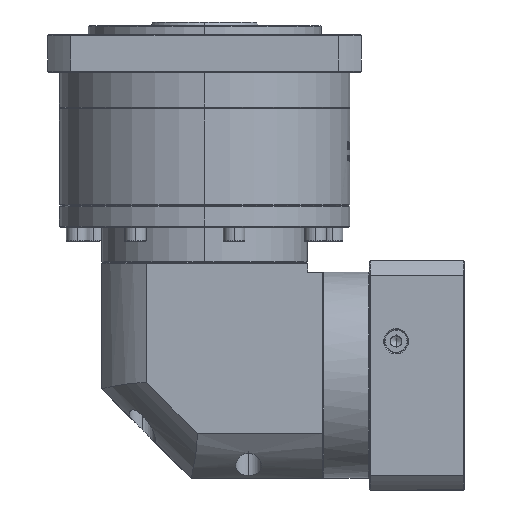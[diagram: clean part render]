
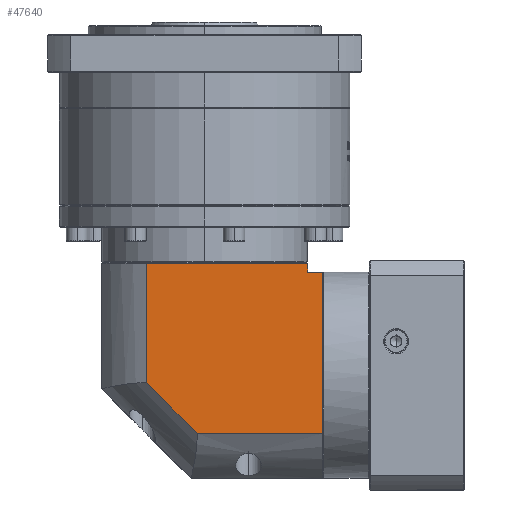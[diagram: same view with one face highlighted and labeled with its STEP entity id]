
A CAD part, left-side view. The second image highlights one B-rep face of the part: STEP entity #47640.
In plain terms, the highlighted planar face has unit normal (-1, 0, 0).
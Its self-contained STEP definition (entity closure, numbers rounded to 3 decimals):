
#300 = VERTEX_POINT ( 'NONE', #74314 ) ;
#4850 = VERTEX_POINT ( 'NONE', #40937 ) ;
#4949 = VECTOR ( 'NONE', #36553, 1000. ) ;
#10847 = ORIENTED_EDGE ( 'NONE', *, *, #86103, .T. ) ;
#13718 = VERTEX_POINT ( 'NONE', #33028 ) ;
#16715 = FACE_OUTER_BOUND ( 'NONE', #24310, .T. ) ;
#17124 = EDGE_CURVE ( 'NONE', #300, #4850, #25719, .T. ) ;
#18502 = EDGE_CURVE ( 'NONE', #143981, #300, #37443, .T. ) ;
#24310 = EDGE_LOOP ( 'NONE', ( #51058, #57405, #113520, #60749, #10847, #97945, #89413 ) ) ;
#25430 = EDGE_CURVE ( 'NONE', #136880, #41535, #133051, .T. ) ;
#25719 = LINE ( 'NONE', #141885, #149156 ) ;
#33028 = CARTESIAN_POINT ( 'NONE',  ( -262.846, -89.893, 93.767 ) ) ;
#36553 = DIRECTION ( 'NONE',  ( 0., 0., 1. ) ) ;
#37443 = LINE ( 'NONE', #122104, #41147 ) ;
#38578 = CARTESIAN_POINT ( 'NONE',  ( -262.846, -81.493, 93.767 ) ) ;
#40937 = CARTESIAN_POINT ( 'NONE',  ( -262.846, 8.407, 32.205 ) ) ;
#41147 = VECTOR ( 'NONE', #134157, 1000. ) ;
#41535 = VERTEX_POINT ( 'NONE', #60203 ) ;
#42676 = CARTESIAN_POINT ( 'NONE',  ( -262.846, 33.507, 105.267 ) ) ;
#47640 = ADVANCED_FACE ( 'NONE', ( #16715 ), #126887, .F. ) ;
#48588 = CARTESIAN_POINT ( 'NONE',  ( -262.846, 8.407, 105.267 ) ) ;
#51058 = ORIENTED_EDGE ( 'NONE', *, *, #149058, .F. ) ;
#52317 = VECTOR ( 'NONE', #60518, 1000. ) ;
#57405 = ORIENTED_EDGE ( 'NONE', *, *, #17124, .F. ) ;
#60203 = CARTESIAN_POINT ( 'NONE',  ( -262.846, -81.493, 98.767 ) ) ;
#60518 = DIRECTION ( 'NONE',  ( 0., 1., 0. ) ) ;
#60749 = ORIENTED_EDGE ( 'NONE', *, *, #130321, .F. ) ;
#63020 = VECTOR ( 'NONE', #137253, 1000. ) ;
#64398 = EDGE_CURVE ( 'NONE', #72272, #41535, #82146, .T. ) ;
#65811 = CARTESIAN_POINT ( 'NONE',  ( -262.846, -81.493, -21.233 ) ) ;
#67051 = CARTESIAN_POINT ( 'NONE',  ( -262.846, 8.407, 98.767 ) ) ;
#70647 = CARTESIAN_POINT ( 'NONE',  ( -262.846, -89.893, 3.867 ) ) ;
#71152 = CARTESIAN_POINT ( 'NONE',  ( -262.846, 33.507, 98.767 ) ) ;
#72272 = VERTEX_POINT ( 'NONE', #67051 ) ;
#73176 = AXIS2_PLACEMENT_3D ( 'NONE', #42676, #139399, #78790 ) ;
#74314 = CARTESIAN_POINT ( 'NONE',  ( -262.846, -19.931, 3.867 ) ) ;
#78139 = CARTESIAN_POINT ( 'NONE',  ( -262.846, -89.893, 105.267 ) ) ;
#78790 = DIRECTION ( 'NONE',  ( 0., 1., 0. ) ) ;
#82146 = LINE ( 'NONE', #71152, #115805 ) ;
#82638 = DIRECTION ( 'NONE',  ( 0., -1., 0. ) ) ;
#86103 = EDGE_CURVE ( 'NONE', #13718, #136880, #93354, .T. ) ;
#87779 = DIRECTION ( 'NONE',  ( 0., 0., 1. ) ) ;
#89413 = ORIENTED_EDGE ( 'NONE', *, *, #64398, .F. ) ;
#93354 = LINE ( 'NONE', #38578, #52317 ) ;
#96966 = CARTESIAN_POINT ( 'NONE',  ( -262.846, -81.493, 93.767 ) ) ;
#97945 = ORIENTED_EDGE ( 'NONE', *, *, #25430, .T. ) ;
#101170 = VECTOR ( 'NONE', #87779, 1000. ) ;
#113520 = ORIENTED_EDGE ( 'NONE', *, *, #18502, .F. ) ;
#115805 = VECTOR ( 'NONE', #82638, 1000. ) ;
#122104 = CARTESIAN_POINT ( 'NONE',  ( -262.846, 33.507, 3.867 ) ) ;
#124650 = LINE ( 'NONE', #78139, #63020 ) ;
#126887 = PLANE ( 'NONE',  #73176 ) ;
#130321 = EDGE_CURVE ( 'NONE', #13718, #143981, #124650, .T. ) ;
#130407 = DIRECTION ( 'NONE',  ( 0., 0.707, 0.707 ) ) ;
#133051 = LINE ( 'NONE', #65811, #101170 ) ;
#134157 = DIRECTION ( 'NONE',  ( 0., 1., 0. ) ) ;
#136880 = VERTEX_POINT ( 'NONE', #96966 ) ;
#137253 = DIRECTION ( 'NONE',  ( 0., 0., -1. ) ) ;
#139399 = DIRECTION ( 'NONE',  ( 1., 0., 0. ) ) ;
#141427 = LINE ( 'NONE', #48588, #4949 ) ;
#141885 = CARTESIAN_POINT ( 'NONE',  ( -262.846, -19.931, 3.867 ) ) ;
#143981 = VERTEX_POINT ( 'NONE', #70647 ) ;
#149058 = EDGE_CURVE ( 'NONE', #4850, #72272, #141427, .T. ) ;
#149156 = VECTOR ( 'NONE', #130407, 1000. ) ;
